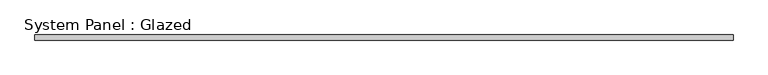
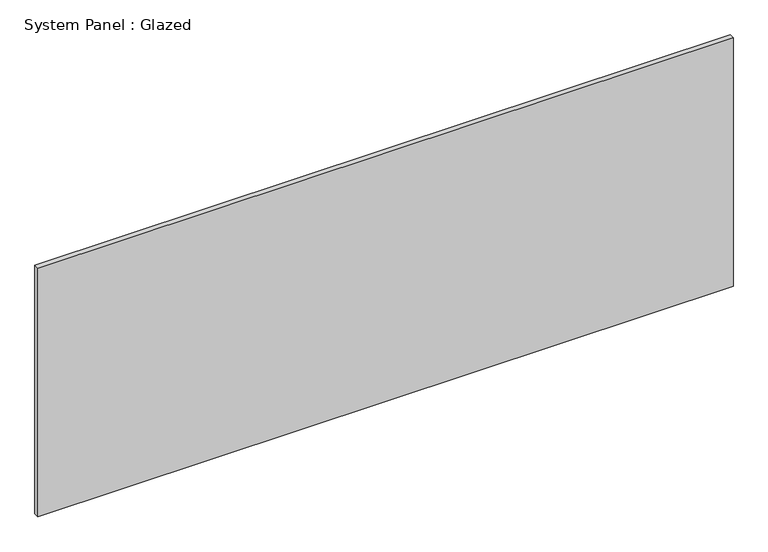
"""IFC4 building model written with IfcOpenShell, lengths in millimetres: plate geometry, System Panel : Glazed."""

from ifc_helpers import new_model, si_unit, origin, origin_with_axes, place, context, project, spatial, polyline, outline, extrude, source, transform, mapped, element, save


def system_panel_glazed_1b3e268e(model_context):
    return source(origin(), model_context, "Body", "SweptSolid", [
        extrude(outline(polyline([(1231.7373692, -9.0), (-1231.7373692, -9.0), (-1231.7373692, 9.0), (1231.7373692, 9.0), (1231.7373692, -9.0)])), origin_with_axes(), (0.0, 0.0, 1.0), 931.3333333),
    ])


if __name__ == "__main__":
    model = new_model("IFC4")
    model_context = context("Model", 3, world=origin())
    ifc_project = project(units=[si_unit("LENGTHUNIT", "METRE", prefix="MILLI")], contexts=[model_context])
    site = spatial("IfcSite", under=ifc_project)
    building = spatial("IfcBuilding", under=site)
    placement = place(None, origin())
    system_panel_glazed_shape = system_panel_glazed_1b3e268e(model_context)
    element("IfcPlate", 1, ObjectType="System Panel : Glazed", at=placement, inside=building, context=model_context, shape_type="MappedRepresentation", body=[
        mapped(system_panel_glazed_shape, transform((0.0, 0.0, 0.0), x_axis=(1.0, 0.0, 0.0), y_axis=(0.0, 1.0, 0.0), z_axis=(0.0, 0.0, 1.0))),
    ])
    save(model, "model.ifc")
